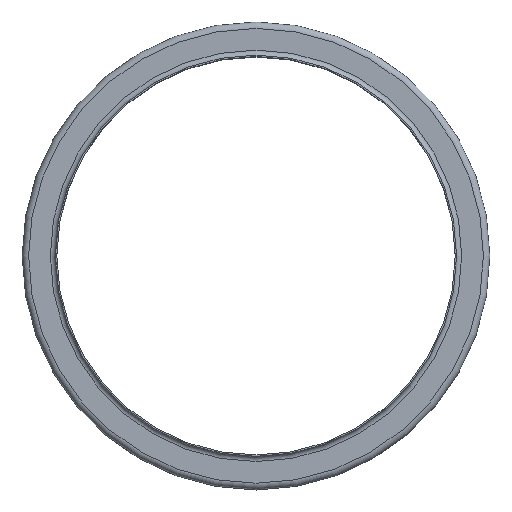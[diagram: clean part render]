
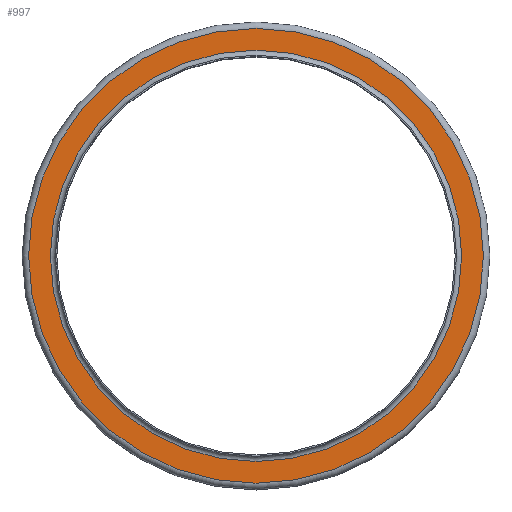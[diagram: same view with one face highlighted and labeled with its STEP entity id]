
A CAD part, top view. The second image highlights one B-rep face of the part: STEP entity #997.
In plain terms, the highlighted planar face has unit normal (0, 0, 1).
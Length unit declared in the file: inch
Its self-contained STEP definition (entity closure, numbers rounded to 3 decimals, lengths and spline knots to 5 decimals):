
#95=FACE_BOUND('',#269,.T.);
#162=FACE_OUTER_BOUND('',#268,.T.);
#268=EDGE_LOOP('',(#769));
#269=EDGE_LOOP('',(#770));
#382=CIRCLE('',#1186,4.4525);
#383=CIRCLE('',#1188,4.9225);
#463=VERTEX_POINT('',#1810);
#464=VERTEX_POINT('',#1814);
#568=EDGE_CURVE('',#463,#463,#382,.T.);
#569=EDGE_CURVE('',#464,#464,#383,.T.);
#769=ORIENTED_EDGE('',*,*,#569,.F.);
#770=ORIENTED_EDGE('',*,*,#568,.T.);
#851=PLANE('',#1187);
#997=ADVANCED_FACE('',(#162,#95),#851,.T.);
#1186=AXIS2_PLACEMENT_3D('',#1812,#1522,#1523);
#1187=AXIS2_PLACEMENT_3D('',#1813,#1524,#1525);
#1188=AXIS2_PLACEMENT_3D('',#1815,#1526,#1527);
#1522=DIRECTION('center_axis',(0.,0.,-1.));
#1523=DIRECTION('ref_axis',(1.,0.,0.));
#1524=DIRECTION('center_axis',(0.,0.,1.));
#1525=DIRECTION('ref_axis',(1.,0.,0.));
#1526=DIRECTION('center_axis',(0.,0.,-1.));
#1527=DIRECTION('ref_axis',(1.,0.,0.));
#1810=CARTESIAN_POINT('',(4.4525,0.,-0.11));
#1812=CARTESIAN_POINT('Origin',(0.,0.,-0.11));
#1813=CARTESIAN_POINT('Origin',(0.,4.9225,-0.11));
#1814=CARTESIAN_POINT('',(4.9225,0.,-0.11));
#1815=CARTESIAN_POINT('Origin',(0.,0.,-0.11));
